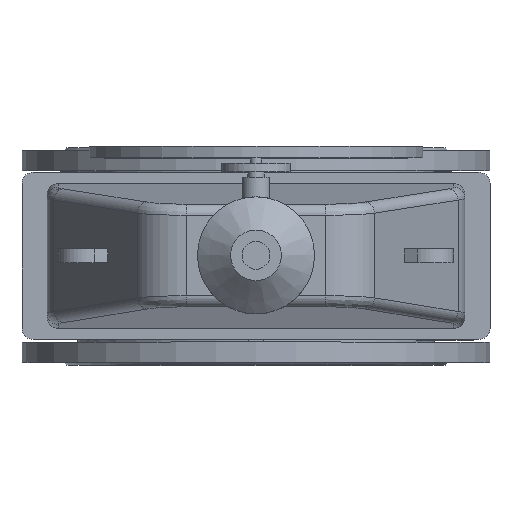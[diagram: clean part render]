
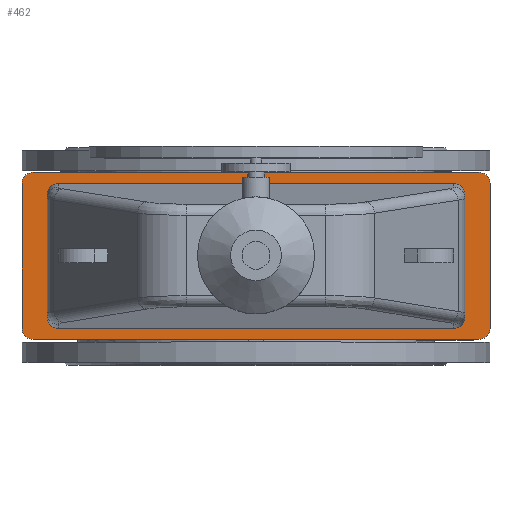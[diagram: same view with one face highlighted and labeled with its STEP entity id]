
A CAD part, top view. The second image highlights one B-rep face of the part: STEP entity #462.
In plain terms, the highlighted planar face has unit normal (0, 0, 1).
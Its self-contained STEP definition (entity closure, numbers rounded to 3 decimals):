
#462=ADVANCED_FACE('',(#3216,#3218),#3220,.T.);
#3216=FACE_BOUND('',#3217,.T.);
#3217=EDGE_LOOP('',(#6424,#6425,#6426,#6427,#6428,#6429,#6430,#6431));
#3218=FACE_BOUND('',#3219,.T.);
#3219=EDGE_LOOP('',(#6432,#6433,#6434,#6435,#6436,#6437,#6438,#6439));
#3220=PLANE('',#3221);
#3221=AXIS2_PLACEMENT_3D('',#3222,#3223,#3224);
#3222=CARTESIAN_POINT('',(0.,0.,676.));
#3223=DIRECTION('',(0.,-0.,1.));
#3224=DIRECTION('',(0.,1.,0.));
#6424=ORIENTED_EDGE('',*,*,#7551,.F.);
#6425=ORIENTED_EDGE('',*,*,#7552,.T.);
#6426=ORIENTED_EDGE('',*,*,#7553,.F.);
#6427=ORIENTED_EDGE('',*,*,#7554,.T.);
#6428=ORIENTED_EDGE('',*,*,#7555,.F.);
#6429=ORIENTED_EDGE('',*,*,#7556,.T.);
#6430=ORIENTED_EDGE('',*,*,#7557,.F.);
#6431=ORIENTED_EDGE('',*,*,#7558,.T.);
#6432=ORIENTED_EDGE('',*,*,#7541,.F.);
#6433=ORIENTED_EDGE('',*,*,#7511,.F.);
#6434=ORIENTED_EDGE('',*,*,#7550,.F.);
#6435=ORIENTED_EDGE('',*,*,#7559,.F.);
#6436=ORIENTED_EDGE('',*,*,#7560,.F.);
#6437=ORIENTED_EDGE('',*,*,#7524,.F.);
#6438=ORIENTED_EDGE('',*,*,#7561,.F.);
#6439=ORIENTED_EDGE('',*,*,#7562,.F.);
#7511=EDGE_CURVE('',#8152,#8138,#8154,.T.);
#7524=EDGE_CURVE('',#8173,#8176,#8177,.T.);
#7541=EDGE_CURVE('',#8138,#8206,#8207,.F.);
#7550=EDGE_CURVE('',#8217,#8152,#8219,.T.);
#7551=EDGE_CURVE('',#8220,#8221,#8222,.F.);
#7552=EDGE_CURVE('',#8220,#8223,#8224,.T.);
#7553=EDGE_CURVE('',#8225,#8223,#8226,.F.);
#7554=EDGE_CURVE('',#8225,#8227,#8228,.T.);
#7555=EDGE_CURVE('',#8229,#8227,#8230,.F.);
#7556=EDGE_CURVE('',#8229,#8231,#8232,.T.);
#7557=EDGE_CURVE('',#8233,#8231,#8234,.F.);
#7558=EDGE_CURVE('',#8233,#8221,#8235,.T.);
#7559=EDGE_CURVE('',#8236,#8217,#8237,.T.);
#7560=EDGE_CURVE('',#8176,#8236,#8238,.F.);
#7561=EDGE_CURVE('',#8239,#8173,#8240,.T.);
#7562=EDGE_CURVE('',#8206,#8239,#8241,.T.);
#8138=VERTEX_POINT('',#9416);
#8152=VERTEX_POINT('',#9448);
#8154=LINE('',#9452,#9453);
#8173=VERTEX_POINT('',#9499);
#8176=VERTEX_POINT('',#9504);
#8177=LINE('',#9505,#9506);
#8206=VERTEX_POINT('',#9574);
#8207=(BOUNDED_CURVE()B_SPLINE_CURVE(3,
(#9575,#9576,#9577,#9578),
.UNSPECIFIED.,.F.,.F.)B_SPLINE_CURVE_WITH_KNOTS((4,4),
(0.,1.),
.UNSPECIFIED.)CURVE()GEOMETRIC_REPRESENTATION_ITEM()RATIONAL_B_SPLINE_CURVE((1.,
0.805,0.805,1.))REPRESENTATION_ITEM(''));
#8217=VERTEX_POINT('',#9608);
#8219=(BOUNDED_CURVE()B_SPLINE_CURVE(3,
(#9612,#9613,#9614,#9615),
.UNSPECIFIED.,.F.,.F.)B_SPLINE_CURVE_WITH_KNOTS((4,4),
(0.,1.),
.UNSPECIFIED.)CURVE()GEOMETRIC_REPRESENTATION_ITEM()RATIONAL_B_SPLINE_CURVE((1.,
0.805,0.805,1.))REPRESENTATION_ITEM(''));
#8220=VERTEX_POINT('',#9616);
#8221=VERTEX_POINT('',#9617);
#8222=CIRCLE('',#9618,20.);
#8223=VERTEX_POINT('',#9622);
#8224=LINE('',#9623,#9624);
#8225=VERTEX_POINT('',#9626);
#8226=CIRCLE('',#9627,20.);
#8227=VERTEX_POINT('',#9631);
#8228=LINE('',#9632,#9633);
#8229=VERTEX_POINT('',#9635);
#8230=CIRCLE('',#9636,20.);
#8231=VERTEX_POINT('',#9640);
#8232=LINE('',#9641,#9642);
#8233=VERTEX_POINT('',#9644);
#8234=CIRCLE('',#9645,20.);
#8235=LINE('',#9649,#9650);
#8236=VERTEX_POINT('',#9652);
#8237=LINE('',#9653,#9654);
#8238=(BOUNDED_CURVE()B_SPLINE_CURVE(3,
(#9656,#9657,#9658,#9659),
.UNSPECIFIED.,.F.,.F.)B_SPLINE_CURVE_WITH_KNOTS((4,4),
(0.,1.),
.UNSPECIFIED.)CURVE()GEOMETRIC_REPRESENTATION_ITEM()RATIONAL_B_SPLINE_CURVE((1.,
0.805,0.805,1.))REPRESENTATION_ITEM(''));
#8239=VERTEX_POINT('',#9660);
#8240=(BOUNDED_CURVE()B_SPLINE_CURVE(3,
(#9661,#9662,#9663,#9664),
.UNSPECIFIED.,.F.,.F.)B_SPLINE_CURVE_WITH_KNOTS((4,4),
(0.,1.),
.UNSPECIFIED.)CURVE()GEOMETRIC_REPRESENTATION_ITEM()RATIONAL_B_SPLINE_CURVE((1.,
0.805,0.805,1.))REPRESENTATION_ITEM(''));
#8241=LINE('',#9665,#9666);
#9416=CARTESIAN_POINT('',(355.,-130.,676.));
#9448=CARTESIAN_POINT('',(-355.,-130.,676.));
#9452=CARTESIAN_POINT('',(-355.,-130.,676.));
#9453=VECTOR('',#9454,1.);
#9454=DIRECTION('',(1.,0.,0.));
#9499=CARTESIAN_POINT('',(355.,130.,676.));
#9504=CARTESIAN_POINT('',(-355.,130.,676.));
#9505=CARTESIAN_POINT('',(355.,130.,676.));
#9506=VECTOR('',#9507,1.);
#9507=DIRECTION('',(-1.,0.,0.));
#9574=CARTESIAN_POINT('',(375.,-109.924,676.));
#9575=CARTESIAN_POINT('',(375.,-109.924,676.));
#9576=CARTESIAN_POINT('',(375.,-121.684,676.));
#9577=CARTESIAN_POINT('',(366.716,-130.,676.));
#9578=CARTESIAN_POINT('',(355.,-130.,676.));
#9608=CARTESIAN_POINT('',(-375.,-109.924,676.));
#9612=CARTESIAN_POINT('',(-375.,-109.924,676.));
#9613=CARTESIAN_POINT('',(-375.,-121.684,676.));
#9614=CARTESIAN_POINT('',(-366.716,-130.,676.));
#9615=CARTESIAN_POINT('',(-355.,-130.,676.));
#9616=CARTESIAN_POINT('',(-400.,-150.,676.));
#9617=CARTESIAN_POINT('',(-420.,-130.,676.));
#9618=AXIS2_PLACEMENT_3D('',#9619,#9620,#9621);
#9619=CARTESIAN_POINT('',(-400.,-130.,676.));
#9620=DIRECTION('',(0.,-0.,1.));
#9621=DIRECTION('',(-1.,0.,0.));
#9622=CARTESIAN_POINT('',(400.,-150.,676.));
#9623=CARTESIAN_POINT('',(-400.,-150.,676.));
#9624=VECTOR('',#9625,1.);
#9625=DIRECTION('',(1.,0.,0.));
#9626=CARTESIAN_POINT('',(420.,-130.,676.));
#9627=AXIS2_PLACEMENT_3D('',#9628,#9629,#9630);
#9628=CARTESIAN_POINT('',(400.,-130.,676.));
#9629=DIRECTION('',(0.,-0.,1.));
#9630=DIRECTION('',(0.,-1.,0.));
#9631=CARTESIAN_POINT('',(420.,130.,676.));
#9632=CARTESIAN_POINT('',(420.,-130.,676.));
#9633=VECTOR('',#9634,1.);
#9634=DIRECTION('',(0.,1.,0.));
#9635=CARTESIAN_POINT('',(400.,150.,676.));
#9636=AXIS2_PLACEMENT_3D('',#9637,#9638,#9639);
#9637=CARTESIAN_POINT('',(400.,130.,676.));
#9638=DIRECTION('',(0.,-0.,1.));
#9639=DIRECTION('',(1.,0.,0.));
#9640=CARTESIAN_POINT('',(-400.,150.,676.));
#9641=CARTESIAN_POINT('',(400.,150.,676.));
#9642=VECTOR('',#9643,1.);
#9643=DIRECTION('',(-1.,0.,0.));
#9644=CARTESIAN_POINT('',(-420.,130.,676.));
#9645=AXIS2_PLACEMENT_3D('',#9646,#9647,#9648);
#9646=CARTESIAN_POINT('',(-400.,130.,676.));
#9647=DIRECTION('',(0.,-0.,1.));
#9648=DIRECTION('',(0.,1.,0.));
#9649=CARTESIAN_POINT('',(-420.,130.,676.));
#9650=VECTOR('',#9651,1.);
#9651=DIRECTION('',(0.,-1.,0.));
#9652=CARTESIAN_POINT('',(-375.,109.924,676.));
#9653=CARTESIAN_POINT('',(-375.,109.924,676.));
#9654=VECTOR('',#9655,1.);
#9655=DIRECTION('',(0.,-1.,0.));
#9656=CARTESIAN_POINT('',(-375.,109.924,676.));
#9657=CARTESIAN_POINT('',(-375.,121.684,676.));
#9658=CARTESIAN_POINT('',(-366.716,130.,676.));
#9659=CARTESIAN_POINT('',(-355.,130.,676.));
#9660=CARTESIAN_POINT('',(375.,109.924,676.));
#9661=CARTESIAN_POINT('',(375.,109.924,676.));
#9662=CARTESIAN_POINT('',(375.,121.684,676.));
#9663=CARTESIAN_POINT('',(366.716,130.,676.));
#9664=CARTESIAN_POINT('',(355.,130.,676.));
#9665=CARTESIAN_POINT('',(375.,-109.924,676.));
#9666=VECTOR('',#9667,1.);
#9667=DIRECTION('',(0.,1.,0.));
